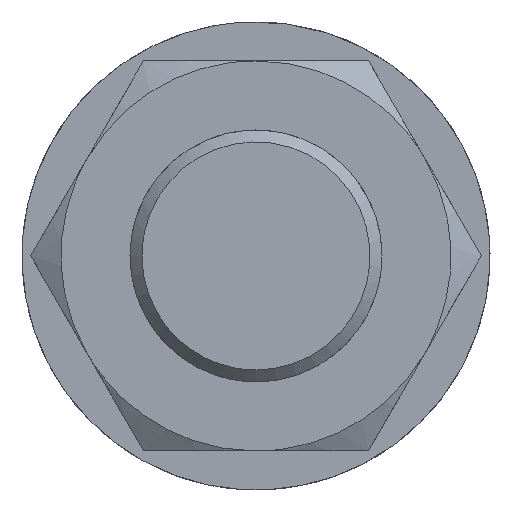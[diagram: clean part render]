
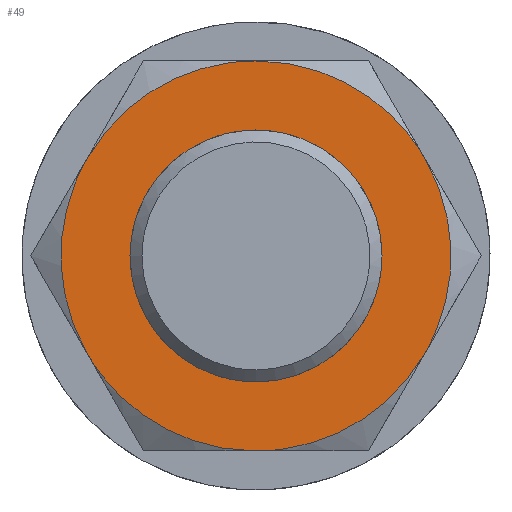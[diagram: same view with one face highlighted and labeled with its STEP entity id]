
A CAD part, left-side view. The second image highlights one B-rep face of the part: STEP entity #49.
In plain terms, the highlighted planar face has unit normal (-1, 0, 0).
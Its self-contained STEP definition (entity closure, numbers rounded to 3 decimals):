
#40=FACE_BOUND('',#138,.T.);
#49=ADVANCED_FACE('',(#92,#40),#663,.T.);
#92=FACE_OUTER_BOUND('',#137,.T.);
#137=EDGE_LOOP('',(#202,#203,#204,#205,#206,#207));
#138=EDGE_LOOP('',(#208,#209));
#202=ORIENTED_EDGE('',*,*,#405,.F.);
#203=ORIENTED_EDGE('',*,*,#407,.F.);
#204=ORIENTED_EDGE('',*,*,#408,.F.);
#205=ORIENTED_EDGE('',*,*,#406,.F.);
#206=ORIENTED_EDGE('',*,*,#404,.F.);
#207=ORIENTED_EDGE('',*,*,#403,.F.);
#208=ORIENTED_EDGE('',*,*,#393,.F.);
#209=ORIENTED_EDGE('',*,*,#391,.F.);
#391=EDGE_CURVE('',#608,#598,#518,.T.);
#393=EDGE_CURVE('',#598,#608,#519,.T.);
#403=EDGE_CURVE('',#602,#603,#527,.T.);
#404=EDGE_CURVE('',#603,#607,#528,.T.);
#405=EDGE_CURVE('',#604,#602,#529,.T.);
#406=EDGE_CURVE('',#607,#606,#530,.T.);
#407=EDGE_CURVE('',#605,#604,#531,.T.);
#408=EDGE_CURVE('',#606,#605,#532,.T.);
#518=(
BOUNDED_CURVE()
B_SPLINE_CURVE(2,(#1166,#1167,#1168,#1169,#1170),.UNSPECIFIED.,.F.,.F.)
B_SPLINE_CURVE_WITH_KNOTS((3,2,3),(65.973,98.96,131.947),
 .UNSPECIFIED.)
CURVE()
GEOMETRIC_REPRESENTATION_ITEM()
RATIONAL_B_SPLINE_CURVE((1.,0.707,1.,0.707,1.))
REPRESENTATION_ITEM('')
);
#519=(
BOUNDED_CURVE()
B_SPLINE_CURVE(2,(#1173,#1174,#1175,#1176,#1177),.UNSPECIFIED.,.F.,.F.)
B_SPLINE_CURVE_WITH_KNOTS((3,2,3),(0.,32.987,65.973),
 .UNSPECIFIED.)
CURVE()
GEOMETRIC_REPRESENTATION_ITEM()
RATIONAL_B_SPLINE_CURVE((1.,0.707,1.,0.707,1.))
REPRESENTATION_ITEM('')
);
#527=(
BOUNDED_CURVE()
B_SPLINE_CURVE(2,(#1215,#1216,#1217),.UNSPECIFIED.,.F.,.F.)
B_SPLINE_CURVE_WITH_KNOTS((3,3),(0.,34.034),.UNSPECIFIED.)
CURVE()
GEOMETRIC_REPRESENTATION_ITEM()
RATIONAL_B_SPLINE_CURVE((1.,0.866,1.))
REPRESENTATION_ITEM('')
);
#528=(
BOUNDED_CURVE()
B_SPLINE_CURVE(2,(#1218,#1219,#1220),.UNSPECIFIED.,.F.,.F.)
B_SPLINE_CURVE_WITH_KNOTS((3,3),(0.,34.034),.UNSPECIFIED.)
CURVE()
GEOMETRIC_REPRESENTATION_ITEM()
RATIONAL_B_SPLINE_CURVE((1.,0.866,1.))
REPRESENTATION_ITEM('')
);
#529=(
BOUNDED_CURVE()
B_SPLINE_CURVE(2,(#1221,#1222,#1223),.UNSPECIFIED.,.F.,.F.)
B_SPLINE_CURVE_WITH_KNOTS((3,3),(0.,34.034),.UNSPECIFIED.)
CURVE()
GEOMETRIC_REPRESENTATION_ITEM()
RATIONAL_B_SPLINE_CURVE((1.,0.866,1.))
REPRESENTATION_ITEM('')
);
#530=(
BOUNDED_CURVE()
B_SPLINE_CURVE(2,(#1224,#1225,#1226),.UNSPECIFIED.,.F.,.F.)
B_SPLINE_CURVE_WITH_KNOTS((3,3),(0.,34.034),.UNSPECIFIED.)
CURVE()
GEOMETRIC_REPRESENTATION_ITEM()
RATIONAL_B_SPLINE_CURVE((1.,0.866,1.))
REPRESENTATION_ITEM('')
);
#531=(
BOUNDED_CURVE()
B_SPLINE_CURVE(2,(#1227,#1228,#1229),.UNSPECIFIED.,.F.,.F.)
B_SPLINE_CURVE_WITH_KNOTS((3,3),(0.,34.034),.UNSPECIFIED.)
CURVE()
GEOMETRIC_REPRESENTATION_ITEM()
RATIONAL_B_SPLINE_CURVE((1.,0.866,1.))
REPRESENTATION_ITEM('')
);
#532=(
BOUNDED_CURVE()
B_SPLINE_CURVE(2,(#1230,#1231,#1232),.UNSPECIFIED.,.F.,.F.)
B_SPLINE_CURVE_WITH_KNOTS((3,3),(0.,34.034),.UNSPECIFIED.)
CURVE()
GEOMETRIC_REPRESENTATION_ITEM()
RATIONAL_B_SPLINE_CURVE((1.,0.866,1.))
REPRESENTATION_ITEM('')
);
#598=VERTEX_POINT('',#1134);
#602=VERTEX_POINT('',#1138);
#603=VERTEX_POINT('',#1139);
#604=VERTEX_POINT('',#1140);
#605=VERTEX_POINT('',#1141);
#606=VERTEX_POINT('',#1142);
#607=VERTEX_POINT('',#1143);
#608=VERTEX_POINT('',#1144);
#663=PLANE('',#777);
#777=AXIS2_PLACEMENT_3D('',#891,#803,$);
#803=DIRECTION('',(-1.,0.,0.));
#891=CARTESIAN_POINT('',(55.,-45.153,39.12));
#1134=CARTESIAN_POINT('',(55.,0.,-21.));
#1138=CARTESIAN_POINT('',(55.,-28.146,16.25));
#1139=CARTESIAN_POINT('',(55.,-28.146,-16.25));
#1140=CARTESIAN_POINT('',(55.,0.,32.5));
#1141=CARTESIAN_POINT('',(55.,28.146,16.25));
#1142=CARTESIAN_POINT('',(55.,28.146,-16.25));
#1143=CARTESIAN_POINT('',(55.,0.,-32.5));
#1144=CARTESIAN_POINT('',(55.,0.,21.));
#1166=CARTESIAN_POINT('',(55.,0.,21.));
#1167=CARTESIAN_POINT('',(55.,21.,21.));
#1168=CARTESIAN_POINT('',(55.,21.,0.));
#1169=CARTESIAN_POINT('',(55.,21.,-21.));
#1170=CARTESIAN_POINT('',(55.,0.,-21.));
#1173=CARTESIAN_POINT('',(55.,0.,-21.));
#1174=CARTESIAN_POINT('',(55.,-21.,-21.));
#1175=CARTESIAN_POINT('',(55.,-21.,0.));
#1176=CARTESIAN_POINT('',(55.,-21.,21.));
#1177=CARTESIAN_POINT('',(55.,0.,21.));
#1215=CARTESIAN_POINT('',(55.,-28.146,16.25));
#1216=CARTESIAN_POINT('',(55.,-37.528,0.));
#1217=CARTESIAN_POINT('',(55.,-28.146,-16.25));
#1218=CARTESIAN_POINT('',(55.,-28.146,-16.25));
#1219=CARTESIAN_POINT('',(55.,-18.764,-32.5));
#1220=CARTESIAN_POINT('',(55.,0.,-32.5));
#1221=CARTESIAN_POINT('',(55.,0.,32.5));
#1222=CARTESIAN_POINT('',(55.,-18.764,32.5));
#1223=CARTESIAN_POINT('',(55.,-28.146,16.25));
#1224=CARTESIAN_POINT('',(55.,0.,-32.5));
#1225=CARTESIAN_POINT('',(55.,18.764,-32.5));
#1226=CARTESIAN_POINT('',(55.,28.146,-16.25));
#1227=CARTESIAN_POINT('',(55.,28.146,16.25));
#1228=CARTESIAN_POINT('',(55.,18.764,32.5));
#1229=CARTESIAN_POINT('',(55.,0.,32.5));
#1230=CARTESIAN_POINT('',(55.,28.146,-16.25));
#1231=CARTESIAN_POINT('',(55.,37.528,0.));
#1232=CARTESIAN_POINT('',(55.,28.146,16.25));
